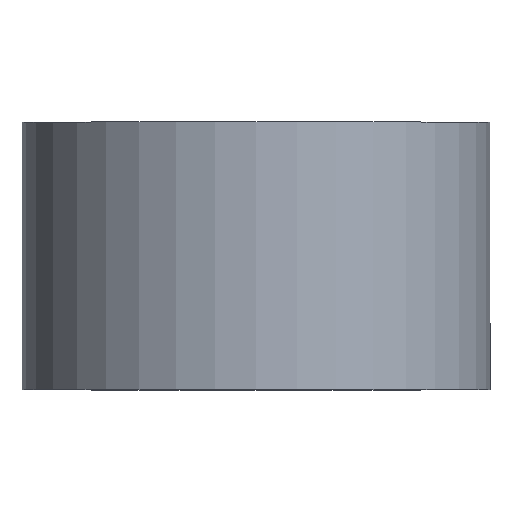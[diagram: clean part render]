
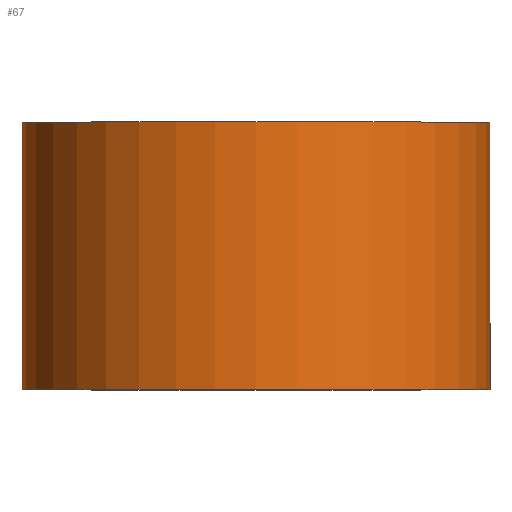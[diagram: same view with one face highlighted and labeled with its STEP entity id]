
A CAD part, top view. The second image highlights one B-rep face of the part: STEP entity #67.
In plain terms, the highlighted cylindrical face has radius 17.5 mm (diameter 35 mm), a partial arc.
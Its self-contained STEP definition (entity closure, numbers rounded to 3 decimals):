
#3 = AXIS2_PLACEMENT_3D ( 'NONE', #210, #124, #228 ) ;
#16 = LINE ( 'NONE', #145, #187 ) ;
#54 = CIRCLE ( 'NONE', #129, 17.5 ) ;
#67 = ADVANCED_FACE ( 'NONE', ( #152 ), #266, .T. ) ;
#69 = EDGE_CURVE ( 'NONE', #108, #247, #54, .T. ) ;
#70 = ORIENTED_EDGE ( 'NONE', *, *, #248, .T. ) ;
#75 = EDGE_LOOP ( 'NONE', ( #183, #70, #192, #215 ) ) ;
#84 = DIRECTION ( 'NONE',  ( 0., 1., 0. ) ) ;
#97 = DIRECTION ( 'NONE',  ( -1., 0., 0. ) ) ;
#98 = DIRECTION ( 'NONE',  ( -1., 0., 0. ) ) ;
#108 = VERTEX_POINT ( 'NONE', #204 ) ;
#115 = DIRECTION ( 'NONE',  ( 0., 1., 0. ) ) ;
#118 = VECTOR ( 'NONE', #214, 1000. ) ;
#124 = DIRECTION ( 'NONE',  ( 0., 1., 0. ) ) ;
#129 = AXIS2_PLACEMENT_3D ( 'NONE', #273, #138, #97 ) ;
#138 = DIRECTION ( 'NONE',  ( 0., 1., 0. ) ) ;
#145 = CARTESIAN_POINT ( 'NONE',  ( -17.5, 0., 0. ) ) ;
#152 = FACE_OUTER_BOUND ( 'NONE', #75, .T. ) ;
#166 = CARTESIAN_POINT ( 'NONE',  ( 17.5, 0., 0. ) ) ;
#182 = CIRCLE ( 'NONE', #3, 17.5 ) ;
#183 = ORIENTED_EDGE ( 'NONE', *, *, #69, .T. ) ;
#185 = CARTESIAN_POINT ( 'NONE',  ( 17.5, 0., 0. ) ) ;
#187 = VECTOR ( 'NONE', #84, 1000. ) ;
#192 = ORIENTED_EDGE ( 'NONE', *, *, #271, .F. ) ;
#204 = CARTESIAN_POINT ( 'NONE',  ( -17.5, 0., 0. ) ) ;
#210 = CARTESIAN_POINT ( 'NONE',  ( 0., 20., 0. ) ) ;
#213 = CARTESIAN_POINT ( 'NONE',  ( 17.5, 20., 0. ) ) ;
#214 = DIRECTION ( 'NONE',  ( 0., 1., 0. ) ) ;
#215 = ORIENTED_EDGE ( 'NONE', *, *, #224, .F. ) ;
#224 = EDGE_CURVE ( 'NONE', #108, #232, #16, .T. ) ;
#228 = DIRECTION ( 'NONE',  ( -1., 0., 0. ) ) ;
#232 = VERTEX_POINT ( 'NONE', #255 ) ;
#242 = CARTESIAN_POINT ( 'NONE',  ( 0., 0., 0. ) ) ;
#244 = LINE ( 'NONE', #166, #118 ) ;
#247 = VERTEX_POINT ( 'NONE', #185 ) ;
#248 = EDGE_CURVE ( 'NONE', #247, #262, #244, .T. ) ;
#255 = CARTESIAN_POINT ( 'NONE',  ( -17.5, 20., 0. ) ) ;
#262 = VERTEX_POINT ( 'NONE', #213 ) ;
#266 = CYLINDRICAL_SURFACE ( 'NONE', #285, 17.5 ) ;
#271 = EDGE_CURVE ( 'NONE', #232, #262, #182, .T. ) ;
#273 = CARTESIAN_POINT ( 'NONE',  ( 0., 0., 0. ) ) ;
#285 = AXIS2_PLACEMENT_3D ( 'NONE', #242, #115, #98 ) ;
